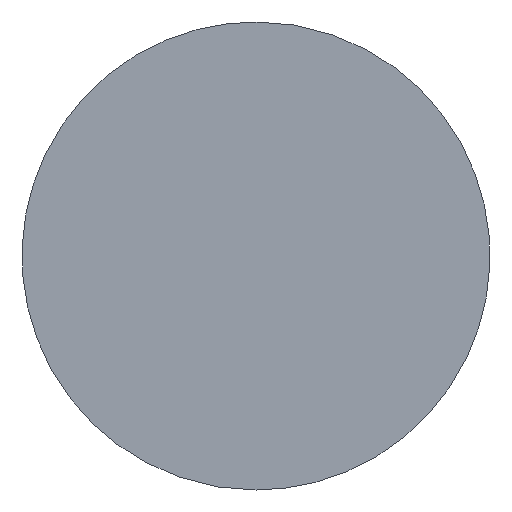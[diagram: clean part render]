
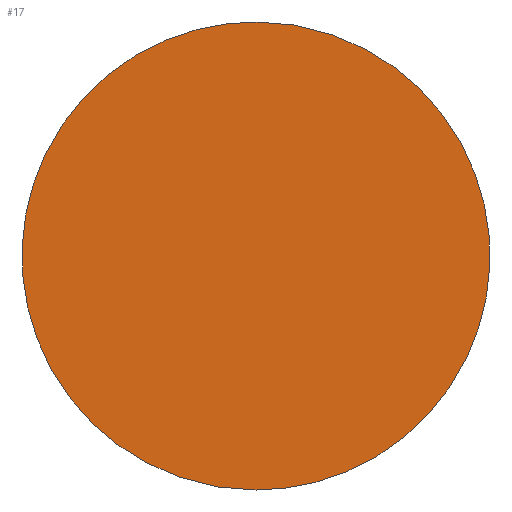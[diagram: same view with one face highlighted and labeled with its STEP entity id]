
A CAD part, left-side view. The second image highlights one B-rep face of the part: STEP entity #17.
In plain terms, the highlighted planar face has unit normal (-1, 0, 0).
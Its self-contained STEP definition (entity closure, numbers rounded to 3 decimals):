
#17 = ADVANCED_FACE('',(#18),#34,.T.);
#18 = FACE_BOUND('',#19,.F.);
#19 = EDGE_LOOP('',(#20,#47));
#20 = ORIENTED_EDGE('',*,*,#21,.T.);
#21 = EDGE_CURVE('',#22,#24,#26,.T.);
#22 = VERTEX_POINT('',#23);
#23 = CARTESIAN_POINT('',(39.341,0.,-10.));
#24 = VERTEX_POINT('',#25);
#25 = CARTESIAN_POINT('',(39.341,0.,10.));
#26 = SURFACE_CURVE('',#27,(#33),.PCURVE_S1.);
#27 = ( BOUNDED_CURVE() B_SPLINE_CURVE(2,(#28,#29,#30,#31,#32),
.UNSPECIFIED.,.F.,.F.) B_SPLINE_CURVE_WITH_KNOTS((3,2,3),(0.,
1.571,3.142),.PIECEWISE_BEZIER_KNOTS.) CURVE() 
GEOMETRIC_REPRESENTATION_ITEM() RATIONAL_B_SPLINE_CURVE((1.,
0.707,1.,0.707,1.)) REPRESENTATION_ITEM('') );
#28 = CARTESIAN_POINT('',(39.341,0.,-10.));
#29 = CARTESIAN_POINT('',(39.341,10.,-10.));
#30 = CARTESIAN_POINT('',(39.341,10.,0.));
#31 = CARTESIAN_POINT('',(39.341,10.,10.));
#32 = CARTESIAN_POINT('',(39.341,0.,10.));
#33 = PCURVE('',#34,#39);
#34 = PLANE('',#35);
#35 = AXIS2_PLACEMENT_3D('',#36,#37,#38);
#36 = CARTESIAN_POINT('',(39.341,0.,-10.));
#37 = DIRECTION('',(-1.,0.,0.));
#38 = DIRECTION('',(0.,0.,-1.));
#39 = DEFINITIONAL_REPRESENTATION('',(#40),#46);
#40 = ( BOUNDED_CURVE() B_SPLINE_CURVE(2,(#41,#42,#43,#44,#45),
.UNSPECIFIED.,.F.,.F.) B_SPLINE_CURVE_WITH_KNOTS((3,2,3),(0.,
1.571,3.142),.PIECEWISE_BEZIER_KNOTS.) CURVE() 
GEOMETRIC_REPRESENTATION_ITEM() RATIONAL_B_SPLINE_CURVE((1.,
0.707,1.,0.707,1.)) REPRESENTATION_ITEM('') );
#41 = CARTESIAN_POINT('',(0.,0.));
#42 = CARTESIAN_POINT('',(0.,-10.));
#43 = CARTESIAN_POINT('',(-10.,-10.));
#44 = CARTESIAN_POINT('',(-20.,-10.));
#45 = CARTESIAN_POINT('',(-20.,0.));
#46 = ( GEOMETRIC_REPRESENTATION_CONTEXT(2) 
PARAMETRIC_REPRESENTATION_CONTEXT() REPRESENTATION_CONTEXT('2D SPACE',''
  ) );
#47 = ORIENTED_EDGE('',*,*,#48,.T.);
#48 = EDGE_CURVE('',#24,#22,#49,.T.);
#49 = SURFACE_CURVE('',#50,(#56),.PCURVE_S1.);
#50 = ( BOUNDED_CURVE() B_SPLINE_CURVE(2,(#51,#52,#53,#54,#55),
.UNSPECIFIED.,.F.,.F.) B_SPLINE_CURVE_WITH_KNOTS((3,2,3),(0.,
1.571,3.142),.PIECEWISE_BEZIER_KNOTS.) CURVE() 
GEOMETRIC_REPRESENTATION_ITEM() RATIONAL_B_SPLINE_CURVE((1.,
0.707,1.,0.707,1.)) REPRESENTATION_ITEM('') );
#51 = CARTESIAN_POINT('',(39.341,0.,10.));
#52 = CARTESIAN_POINT('',(39.341,-10.,10.));
#53 = CARTESIAN_POINT('',(39.341,-10.,0.));
#54 = CARTESIAN_POINT('',(39.341,-10.,-10.));
#55 = CARTESIAN_POINT('',(39.341,0.,-10.));
#56 = PCURVE('',#34,#57);
#57 = DEFINITIONAL_REPRESENTATION('',(#58),#64);
#58 = ( BOUNDED_CURVE() B_SPLINE_CURVE(2,(#59,#60,#61,#62,#63),
.UNSPECIFIED.,.F.,.F.) B_SPLINE_CURVE_WITH_KNOTS((3,2,3),(0.,
1.571,3.142),.PIECEWISE_BEZIER_KNOTS.) CURVE() 
GEOMETRIC_REPRESENTATION_ITEM() RATIONAL_B_SPLINE_CURVE((1.,
0.707,1.,0.707,1.)) REPRESENTATION_ITEM('') );
#59 = CARTESIAN_POINT('',(-20.,0.));
#60 = CARTESIAN_POINT('',(-20.,10.));
#61 = CARTESIAN_POINT('',(-10.,10.));
#62 = CARTESIAN_POINT('',(0.,10.));
#63 = CARTESIAN_POINT('',(0.,0.));
#64 = ( GEOMETRIC_REPRESENTATION_CONTEXT(2) 
PARAMETRIC_REPRESENTATION_CONTEXT() REPRESENTATION_CONTEXT('2D SPACE',''
  ) );
